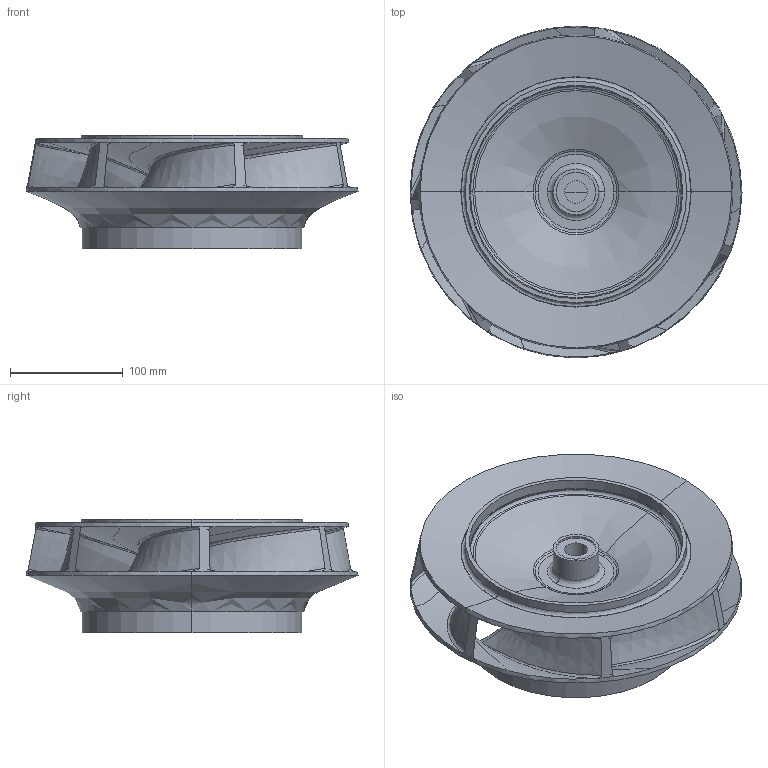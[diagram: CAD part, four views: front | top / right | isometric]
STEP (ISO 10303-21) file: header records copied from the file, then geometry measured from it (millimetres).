
FILE_DESCRIPTION(('Open CASCADE Model'),'2;1');
FILE_NAME('Open CASCADE Shape Model','2018-10-02T16:13:22',('Author'),( 'Open CASCADE'),'Open CASCADE STEP processor 7.0','Open CASCADE 7.0' ,'Unknown');
FILE_SCHEMA(('AUTOMOTIVE_DESIGN { 1 0 10303 214 1 1 1 1 }'));
Products named in the file (1): Radial Impeller.Meridian.Material domain.Solid
Bounding box: 294.99 x 294.99 x 101.04 mm (x, y, z)
Volume: 794335.6 mm3; surface area: 387769.4 mm2
Topology: 1 solids, 1 shells, 146 faces, 365 edges, 204 vertices
Faces by surface type: bspline 63, revolution 46, cone 17, cylinder 14, plane 6
Entity records: 66446 total; most frequent: CARTESIAN_POINT 63723, ORIENTED_EDGE 712, DIRECTION 370, EDGE_CURVE 356, VERTEX_POINT 204, B_SPLINE_CURVE_WITH_KNOTS 190, AXIS2_PLACEMENT_3D 156, FACE_BOUND 152
